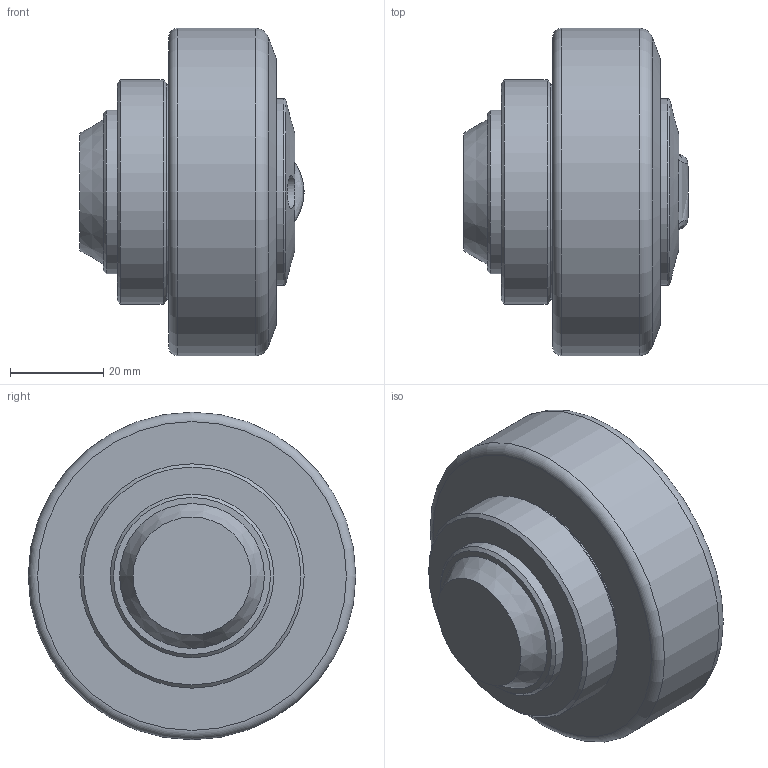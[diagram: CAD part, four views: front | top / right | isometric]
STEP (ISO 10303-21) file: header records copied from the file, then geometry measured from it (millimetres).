
FILE_DESCRIPTION(/* description */ (''),/* implementation_level */ '2;1');
FILE_NAME(/* name */ 'C:\Users\gabriele oddo\Desktop\400-0073.step',/* time_stamp */ '2023-07-26T08:15:33+02:00',/* author */ ('gabriele oddo'),/* organization */ (''),/* preprocessor_version */ 'ST-DEVELOPER v19',/* originating_system */ 'Autodesk Inventor 2023',/* authorisation */ '');
FILE_SCHEMA (('AUTOMOTIVE_DESIGN { 1 0 10303 214 3 1 1 }'));
Length unit declared in the file: millimetre
Products named in the file (1): 400-0073
Bounding box: 48 x 70.1 x 70.1 mm (x, y, z)
Volume: 116859.8 mm3; surface area: 14759.4 mm2
Topology: 1 solids, 1 shells, 42 faces, 100 edges, 68 vertices
Faces by surface type: plane 23, cylinder 7, cone 6, torus 3, bspline 3
Full cylindrical faces by diameter (mm): 7 x2, 35 x1, 40 x1, 46 x1, 48 x1, 70.1 x1
Entity records: 1578 total; most frequent: CARTESIAN_POINT 508, DIRECTION 203, ORIENTED_EDGE 200, EDGE_CURVE 100, AXIS2_PLACEMENT_3D 76, VERTEX_POINT 68, LINE 51, VECTOR 51
